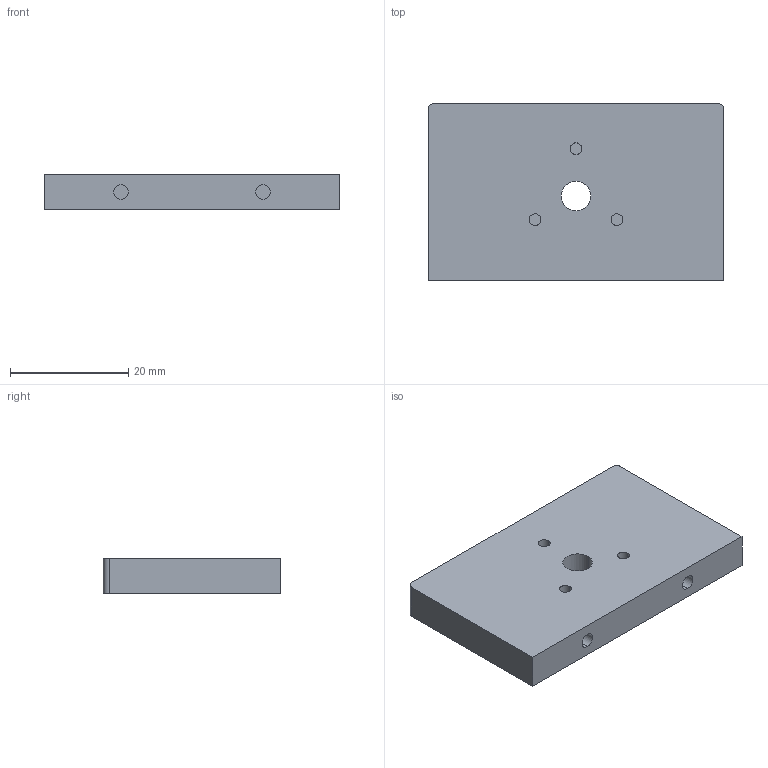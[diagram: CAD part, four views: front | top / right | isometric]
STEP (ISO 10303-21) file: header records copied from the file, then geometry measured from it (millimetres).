
FILE_DESCRIPTION (( 'STEP AP214' ), '1' );
FILE_NAME ('疏え炵苀_謗傷結啣_V1.STEP', '2026-06-22T03:37:52', ( '' ), ( '' ), 'SwSTEP 2.0', 'SolidWorks 2022', '' );
FILE_SCHEMA (( 'AUTOMOTIVE_DESIGN' ));
Length unit declared in the file: millimetre
Products named in the file (1): 波片系统_两端挡板_V1
Bounding box: 50 x 30 x 6 mm (x, y, z)
Volume: 8743.7 mm3; surface area: 4241.4 mm2
Topology: 1 solids, 1 shells, 25 faces, 54 edges, 36 vertices
Faces by surface type: cylinder 14, plane 11
Entity records: 734 total; most frequent: DIRECTION 134, CARTESIAN_POINT 116, ORIENTED_EDGE 108, AXIS2_PLACEMENT_3D 54, EDGE_CURVE 54, VERTEX_POINT 36, EDGE_LOOP 32, CIRCLE 28
